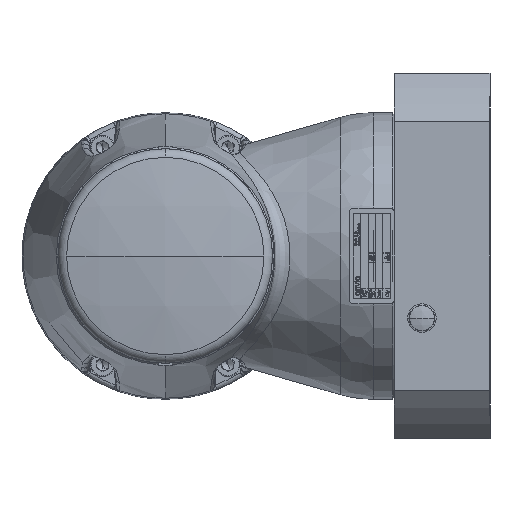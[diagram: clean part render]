
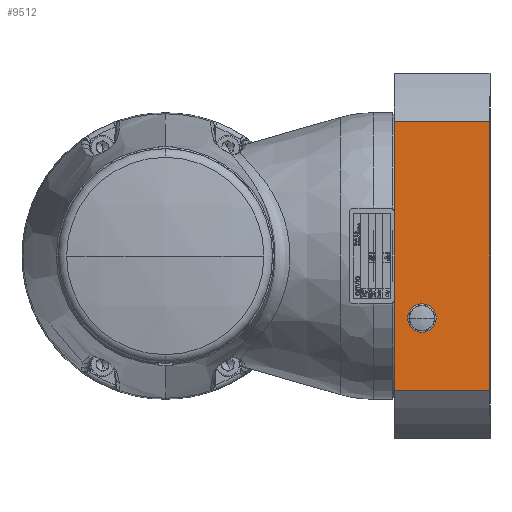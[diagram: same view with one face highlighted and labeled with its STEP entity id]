
A CAD part, left-side view. The second image highlights one B-rep face of the part: STEP entity #9512.
In plain terms, the highlighted planar face has unit normal (-1, 0, 0).
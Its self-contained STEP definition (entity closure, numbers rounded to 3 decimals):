
#2424 = EDGE_CURVE ( 'NONE', #14486, #17960, #16694, .T. ) ;
#3407 = EDGE_LOOP ( 'NONE', ( #12235, #32292 ) ) ;
#4663 = CARTESIAN_POINT ( 'NONE',  ( -76.5, -136., -56.327 ) ) ;
#5366 = CIRCLE ( 'NONE', #24811, 5.35 ) ;
#5537 = ORIENTED_EDGE ( 'NONE', *, *, #20009, .F. ) ;
#5766 = DIRECTION ( 'NONE',  ( -1., 0., 0. ) ) ;
#5782 = EDGE_CURVE ( 'NONE', #7101, #29284, #27571, .T. ) ;
#6122 = DIRECTION ( 'NONE',  ( 0., 0., 1. ) ) ;
#6473 = EDGE_CURVE ( 'NONE', #17960, #14486, #5366, .T. ) ;
#7101 = VERTEX_POINT ( 'NONE', #4663 ) ;
#8106 = EDGE_LOOP ( 'NONE', ( #5537, #16047, #19418, #8238 ) ) ;
#8238 = ORIENTED_EDGE ( 'NONE', *, *, #12736, .T. ) ;
#8567 = CARTESIAN_POINT ( 'NONE',  ( -76.5, -136., 0. ) ) ;
#9512 = ADVANCED_FACE ( 'NONE', ( #9989, #28927 ), #31213, .T. ) ;
#9989 = FACE_BOUND ( 'NONE', #3407, .T. ) ;
#10404 = CARTESIAN_POINT ( 'NONE',  ( -76.5, -136., 56.327 ) ) ;
#10524 = DIRECTION ( 'NONE',  ( -1., 0., 0. ) ) ;
#11161 = CARTESIAN_POINT ( 'NONE',  ( -76.5, -107.5, -31.35 ) ) ;
#12235 = ORIENTED_EDGE ( 'NONE', *, *, #6473, .F. ) ;
#12465 = DIRECTION ( 'NONE',  ( 0., 1., 0. ) ) ;
#12736 = EDGE_CURVE ( 'NONE', #32447, #21591, #15628, .T. ) ;
#14486 = VERTEX_POINT ( 'NONE', #18361 ) ;
#14973 = VECTOR ( 'NONE', #26687, 1000. ) ;
#15295 = CARTESIAN_POINT ( 'NONE',  ( -76.5, -136., 56.327 ) ) ;
#15386 = VECTOR ( 'NONE', #12465, 1000. ) ;
#15628 = LINE ( 'NONE', #10404, #26265 ) ;
#16047 = ORIENTED_EDGE ( 'NONE', *, *, #5782, .F. ) ;
#16150 = CARTESIAN_POINT ( 'NONE',  ( -76.5, -107.5, -26. ) ) ;
#16694 = CIRCLE ( 'NONE', #27228, 5.35 ) ;
#16909 = CARTESIAN_POINT ( 'NONE',  ( -76.5, -96., 0. ) ) ;
#17367 = CARTESIAN_POINT ( 'NONE',  ( -76.5, -96., -56.327 ) ) ;
#17960 = VERTEX_POINT ( 'NONE', #11161 ) ;
#18361 = CARTESIAN_POINT ( 'NONE',  ( -76.5, -107.5, -20.65 ) ) ;
#19009 = LINE ( 'NONE', #16909, #24975 ) ;
#19418 = ORIENTED_EDGE ( 'NONE', *, *, #25894, .T. ) ;
#20009 = EDGE_CURVE ( 'NONE', #29284, #21591, #19009, .T. ) ;
#20789 = CARTESIAN_POINT ( 'NONE',  ( -76.5, -107.5, -26. ) ) ;
#21591 = VERTEX_POINT ( 'NONE', #25168 ) ;
#21644 = CARTESIAN_POINT ( 'NONE',  ( -76.5, -136., 0. ) ) ;
#23771 = DIRECTION ( 'NONE',  ( 0., 1., 0. ) ) ;
#24383 = DIRECTION ( 'NONE',  ( 0., 0., -1. ) ) ;
#24811 = AXIS2_PLACEMENT_3D ( 'NONE', #16150, #31811, #32166 ) ;
#24947 = CARTESIAN_POINT ( 'NONE',  ( -76.5, -136., -56.327 ) ) ;
#24975 = VECTOR ( 'NONE', #6122, 1000. ) ;
#25168 = CARTESIAN_POINT ( 'NONE',  ( -76.5, -96., 56.327 ) ) ;
#25894 = EDGE_CURVE ( 'NONE', #7101, #32447, #29130, .T. ) ;
#26265 = VECTOR ( 'NONE', #23771, 1000. ) ;
#26687 = DIRECTION ( 'NONE',  ( 0., 0., 1. ) ) ;
#27228 = AXIS2_PLACEMENT_3D ( 'NONE', #20789, #10524, #28785 ) ;
#27571 = LINE ( 'NONE', #24947, #15386 ) ;
#28785 = DIRECTION ( 'NONE',  ( 0., 0., -1. ) ) ;
#28927 = FACE_OUTER_BOUND ( 'NONE', #8106, .T. ) ;
#29130 = LINE ( 'NONE', #21644, #14973 ) ;
#29284 = VERTEX_POINT ( 'NONE', #17367 ) ;
#30480 = AXIS2_PLACEMENT_3D ( 'NONE', #8567, #5766, #24383 ) ;
#31213 = PLANE ( 'NONE',  #30480 ) ;
#31811 = DIRECTION ( 'NONE',  ( -1., 0., 0. ) ) ;
#32166 = DIRECTION ( 'NONE',  ( 0., 0., -1. ) ) ;
#32292 = ORIENTED_EDGE ( 'NONE', *, *, #2424, .F. ) ;
#32447 = VERTEX_POINT ( 'NONE', #15295 ) ;
